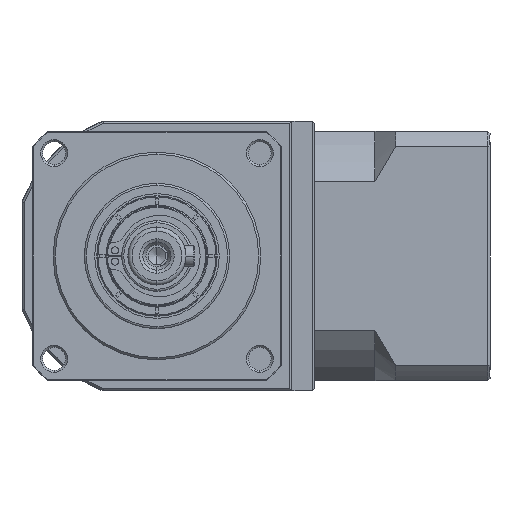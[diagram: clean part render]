
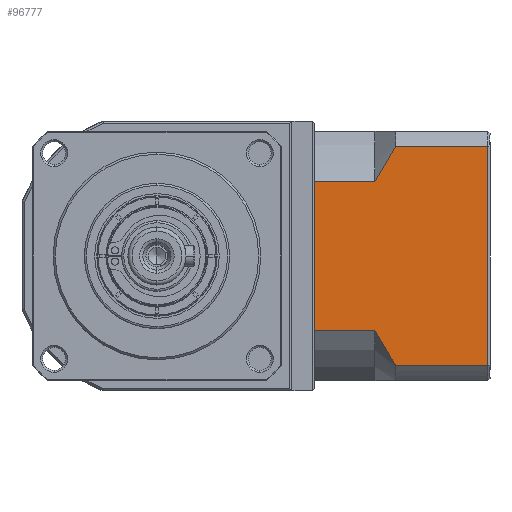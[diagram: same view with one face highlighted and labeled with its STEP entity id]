
A CAD part, left-side view. The second image highlights one B-rep face of the part: STEP entity #96777.
In plain terms, the highlighted planar face has unit normal (-1, 0, 0).
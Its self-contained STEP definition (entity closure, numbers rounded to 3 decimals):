
#618 = ORIENTED_EDGE ( 'NONE', *, *, #57267, .F. ) ;
#4950 = VECTOR ( 'NONE', #105034, 1000. ) ;
#7332 = CARTESIAN_POINT ( 'NONE',  ( 13.597, -76.16, -98.709 ) ) ;
#9409 = DIRECTION ( 'NONE',  ( 0., -1., 0. ) ) ;
#9938 = CARTESIAN_POINT ( 'NONE',  ( 13.597, -72.933, -104.401 ) ) ;
#10712 = VERTEX_POINT ( 'NONE', #135712 ) ;
#12192 = LINE ( 'NONE', #111564, #140018 ) ;
#12471 = LINE ( 'NONE', #117263, #74610 ) ;
#20022 = CARTESIAN_POINT ( 'NONE',  ( 13.597, -100.633, -152.428 ) ) ;
#20385 = ORIENTED_EDGE ( 'NONE', *, *, #82559, .F. ) ;
#22470 = AXIS2_PLACEMENT_3D ( 'NONE', #20022, #106659, #32516 ) ;
#25538 = VECTOR ( 'NONE', #65405, 1000. ) ;
#29990 = ORIENTED_EDGE ( 'NONE', *, *, #85574, .T. ) ;
#32354 = CARTESIAN_POINT ( 'NONE',  ( 13.597, -73.683, -141.913 ) ) ;
#32370 = CARTESIAN_POINT ( 'NONE',  ( 13.597, -77.933, -95.971 ) ) ;
#32516 = DIRECTION ( 'NONE',  ( 0., 1., 0. ) ) ;
#34489 = CARTESIAN_POINT ( 'NONE',  ( 13.597, -72.933, -140.456 ) ) ;
#37403 = DIRECTION ( 'NONE',  ( 0., 1., 0. ) ) ;
#44224 = VECTOR ( 'NONE', #116329, 1000. ) ;
#44824 = CARTESIAN_POINT ( 'NONE',  ( 13.597, -73.681, -102.949 ) ) ;
#52391 = CARTESIAN_POINT ( 'NONE',  ( 13.597, -58.433, -152.428 ) ) ;
#52893 = CARTESIAN_POINT ( 'NONE',  ( 13.597, -100.133, -95.971 ) ) ;
#57267 = EDGE_CURVE ( 'NONE', #111310, #144380, #81649, .T. ) ;
#59117 = VERTEX_POINT ( 'NONE', #122650 ) ;
#59328 = CARTESIAN_POINT ( 'NONE',  ( 13.597, -74.484, -143.338 ) ) ;
#65405 = DIRECTION ( 'NONE',  ( 0., 0., -1. ) ) ;
#71183 = CARTESIAN_POINT ( 'NONE',  ( 13.597, -72.933, -104.401 ) ) ;
#71870 = CARTESIAN_POINT ( 'NONE',  ( 13.597, -77.032, -147.523 ) ) ;
#74610 = VECTOR ( 'NONE', #92388, 1000. ) ;
#75418 = EDGE_CURVE ( 'NONE', #76255, #109450, #12471, .T. ) ;
#76255 = VERTEX_POINT ( 'NONE', #118632 ) ;
#81649 = LINE ( 'NONE', #9938, #147379 ) ;
#82559 = EDGE_CURVE ( 'NONE', #101682, #109450, #142953, .T. ) ;
#85574 = EDGE_CURVE ( 'NONE', #101682, #144380, #140911, .T. ) ;
#91471 = LINE ( 'NONE', #52391, #25538 ) ;
#92388 = DIRECTION ( 'NONE',  ( 0., 0., 1. ) ) ;
#92615 = ORIENTED_EDGE ( 'NONE', *, *, #144979, .T. ) ;
#95866 = VERTEX_POINT ( 'NONE', #125607 ) ;
#96777 = ADVANCED_FACE ( 'NONE', ( #145631 ), #130984, .F. ) ;
#100062 = LINE ( 'NONE', #129959, #4950 ) ;
#100133 = CARTESIAN_POINT ( 'NONE',  ( 13.597, -58.433, -104.401 ) ) ;
#101389 = B_SPLINE_CURVE_WITH_KNOTS ( 'NONE', 3,
 ( #34489, #32354, #59328, #145923, #71870, #158347 ),
 .UNSPECIFIED., .F., .F.,
 ( 4, 2, 4 ),
 ( 0.1, 0.104, 0.109 ),
 .UNSPECIFIED. ) ;
#101682 = VERTEX_POINT ( 'NONE', #116888 ) ;
#101915 = ORIENTED_EDGE ( 'NONE', *, *, #146055, .F. ) ;
#103837 = CARTESIAN_POINT ( 'NONE',  ( 13.597, -72.933, -95.971 ) ) ;
#105034 = DIRECTION ( 'NONE',  ( 0., 1., 0. ) ) ;
#106524 = CARTESIAN_POINT ( 'NONE',  ( 13.597, -77.033, -97.331 ) ) ;
#106659 = DIRECTION ( 'NONE',  ( 1., 0., 0. ) ) ;
#109450 = VERTEX_POINT ( 'NONE', #52893 ) ;
#111310 = VERTEX_POINT ( 'NONE', #100133 ) ;
#111564 = CARTESIAN_POINT ( 'NONE',  ( 13.597, -72.933, -140.456 ) ) ;
#116329 = DIRECTION ( 'NONE',  ( 0., -1., 0. ) ) ;
#116888 = CARTESIAN_POINT ( 'NONE',  ( 13.597, -77.933, -95.971 ) ) ;
#117263 = CARTESIAN_POINT ( 'NONE',  ( 13.597, -100.133, -152.428 ) ) ;
#118632 = CARTESIAN_POINT ( 'NONE',  ( 13.597, -100.133, -148.886 ) ) ;
#118984 = CARTESIAN_POINT ( 'NONE',  ( 13.597, -74.484, -101.517 ) ) ;
#122650 = CARTESIAN_POINT ( 'NONE',  ( 13.597, -72.933, -140.456 ) ) ;
#125607 = CARTESIAN_POINT ( 'NONE',  ( 13.597, -77.933, -148.886 ) ) ;
#128177 = EDGE_LOOP ( 'NONE', ( #101915, #148307, #20385, #29990, #618, #135215, #144886, #92615 ) ) ;
#129959 = CARTESIAN_POINT ( 'NONE',  ( 13.597, -72.933, -148.886 ) ) ;
#130984 = PLANE ( 'NONE',  #22470 ) ;
#131395 = CARTESIAN_POINT ( 'NONE',  ( 13.597, -72.933, -104.401 ) ) ;
#135215 = ORIENTED_EDGE ( 'NONE', *, *, #141133, .T. ) ;
#135712 = CARTESIAN_POINT ( 'NONE',  ( 13.597, -58.433, -140.456 ) ) ;
#140018 = VECTOR ( 'NONE', #37403, 1000. ) ;
#140911 = B_SPLINE_CURVE_WITH_KNOTS ( 'NONE', 3,
 ( #32370, #106524, #7332, #118984, #44824, #131395 ),
 .UNSPECIFIED., .F., .F.,
 ( 4, 2, 4 ),
 ( 0.052, 0.057, 0.062 ),
 .UNSPECIFIED. ) ;
#141133 = EDGE_CURVE ( 'NONE', #111310, #10712, #91471, .T. ) ;
#142953 = LINE ( 'NONE', #103837, #44224 ) ;
#144380 = VERTEX_POINT ( 'NONE', #71183 ) ;
#144886 = ORIENTED_EDGE ( 'NONE', *, *, #148237, .F. ) ;
#144979 = EDGE_CURVE ( 'NONE', #59117, #95866, #101389, .T. ) ;
#145631 = FACE_OUTER_BOUND ( 'NONE', #128177, .T. ) ;
#145923 = CARTESIAN_POINT ( 'NONE',  ( 13.597, -76.158, -146.143 ) ) ;
#146055 = EDGE_CURVE ( 'NONE', #76255, #95866, #100062, .T. ) ;
#147379 = VECTOR ( 'NONE', #9409, 1000. ) ;
#148237 = EDGE_CURVE ( 'NONE', #59117, #10712, #12192, .T. ) ;
#148307 = ORIENTED_EDGE ( 'NONE', *, *, #75418, .T. ) ;
#158347 = CARTESIAN_POINT ( 'NONE',  ( 13.597, -77.933, -148.886 ) ) ;
